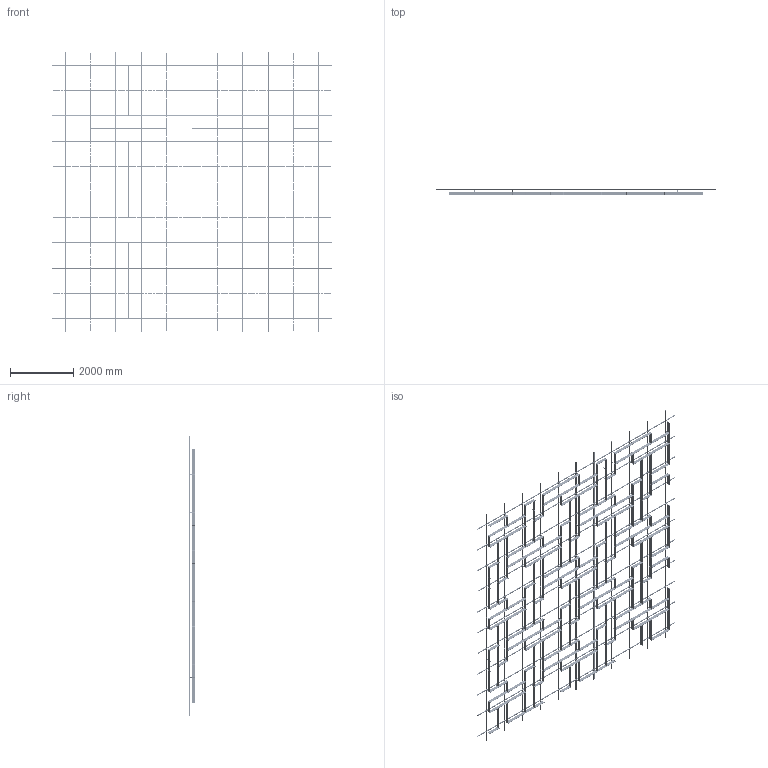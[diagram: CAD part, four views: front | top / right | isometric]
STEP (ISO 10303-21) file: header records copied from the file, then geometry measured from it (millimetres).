
FILE_DESCRIPTION (( 'STEP AP203' ), '1' );
FILE_NAME ('21 ìèäè ñ ïñ.step', '2025-11-26T11:48:28', ( '' ), ( '' ), 'SwSTEP 2.0', 'SolidWorks 2020', '' );
FILE_SCHEMA (( 'CONFIG_CONTROL_DESIGN' ));
Length unit declared in the file: millimetre
Products named in the file (5): Ñèñòåìà â çîíå 8000õ8000; Var21; SS.SEMA.2400 - Ñèìà-ïðîôèëü; SS.SEMA.2400 - Ñèìà-ïðîôèëü — îáðåçàí 1600; 21 ìèäè ñ ïñ
Assembly tree (90 placements, depth 3):
  21 ìèäè ñ ïñ
    Ñèñòåìà â çîíå 8000õ8000
      SS.SEMA.2400 - Ñèìà-ïðîôèëü  x66
      SS.SEMA.2400 - Ñèìà-ïðîôèëü — îáðåçàí 1600  x22
    Var21
Bounding box: 8800 x 205 x 8800 mm (x, y, z)
Volume: 162035347.1 mm3; surface area: 67602847.2 mm2
Topology: 1325 solids, 1325 shells, 22066 faces, 56840 edges, 37424 vertices
Faces by surface type: cylinder 13714, plane 8352
Entity records: 142465 total; most frequent: CARTESIAN_POINT 33608, DIRECTION 20910, ORIENTED_EDGE 20528, EDGE_CURVE 10264, AXIS2_PLACEMENT_3D 10206, VERTEX_POINT 6832, EDGE_LOOP 6072, ADVANCED_FACE 5910
